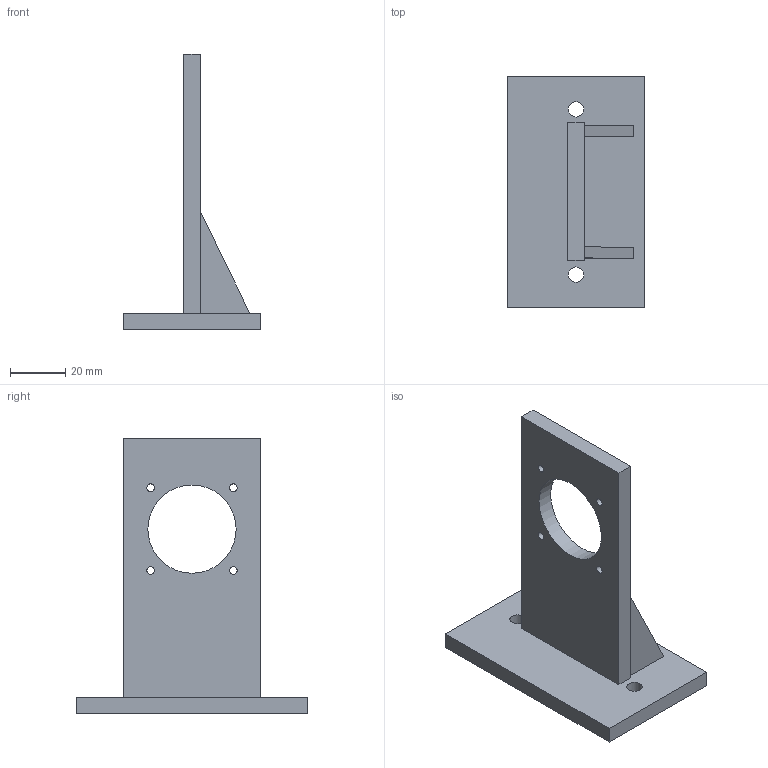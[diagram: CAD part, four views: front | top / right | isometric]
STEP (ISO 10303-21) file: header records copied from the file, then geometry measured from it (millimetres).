
FILE_DESCRIPTION(('Open CASCADE Model'),'2;1');
FILE_NAME('Open CASCADE Shape Model','2026-10-08T14:17:54',('Author'),( 'Open CASCADE'),'Open CASCADE STEP processor 7.9','Open CASCADE 7.9' ,'Unknown');
FILE_SCHEMA(('AUTOMOTIVE_DESIGN { 1 0 10303 214 1 1 1 1 }'));
Length unit declared in the file: millimetre
Products named in the file (1): Open CASCADE STEP translator 7.9 5
Bounding box: 50 x 84 x 100 mm (x, y, z)
Volume: 50795.2 mm3; surface area: 21026.3 mm2
Topology: 1 solids, 1 shells, 24 faces, 63 edges, 42 vertices
Faces by surface type: plane 17, cylinder 7
Full cylindrical faces by diameter (mm): 2.8 x4, 5.6 x2, 32 x1
Entity records: 1640 total; most frequent: CARTESIAN_POINT 340, DIRECTION 239, LINE 161, VECTOR 161, ORIENTED_EDGE 126, PCURVE 126, DEFINITIONAL_REPRESENTATION 126, EDGE_CURVE 63
